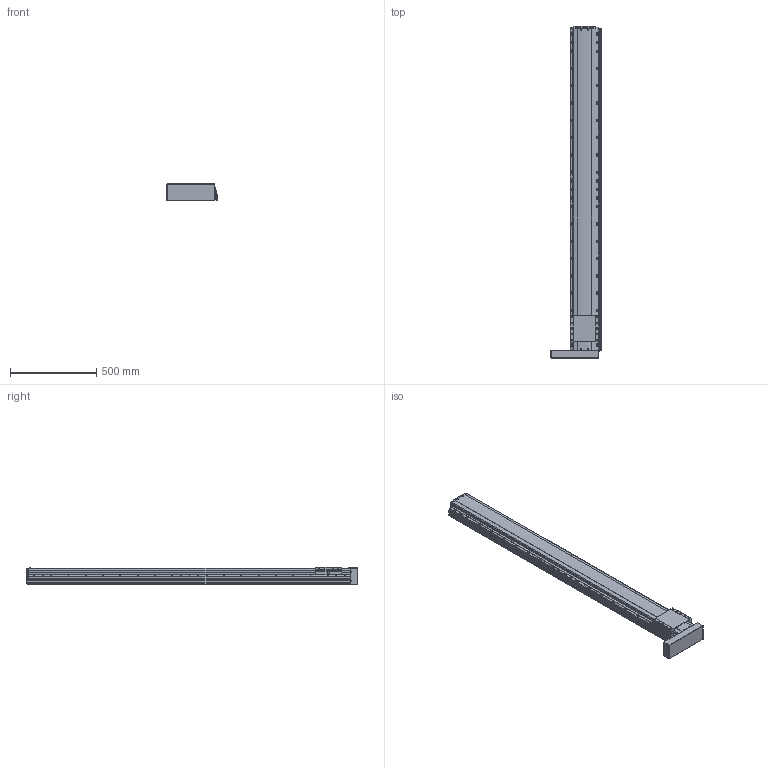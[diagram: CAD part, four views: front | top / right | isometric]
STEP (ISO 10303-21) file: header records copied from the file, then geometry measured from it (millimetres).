
FILE_DESCRIPTION(('STEP AP214'),'1');
FILE_NAME('Z:/Web/3D/PSA165/STP/PSA165-1600 (3D)/PSA165ㅁㅁ-1600PL+3SR.stp','2014-06-24T11:10:19',(' '),(' '),'Spatial InterOp 3D',' ',' ');
FILE_SCHEMA(('automotive_design'));
Length unit declared in the file: millimetre
Products named in the file (41): 스크루 : Round - M4.0 x 12.0; RRCV-PA160; BASE; 스크루 : Round - M4.0 x 10.0; RN15; Screw 20; SLIDE; FRCV; MTPL; 스크루 : Round - M3.0 x 6.0; M3.0 x 6.0; SRL-16x17-360L; SGD-SAN150; EE-SX674; SBK-SX674-352; BHCS M4.0 x 10.0
Bounding box: 294.46 x 1920.8 x 104 mm (x, y, z)
Volume: 26975754.6 mm3; surface area: 1784969 mm2
Topology: 41 solids, 41 shells, 2756 faces, 7413 edges, 4741 vertices
Faces by surface type: plane 1491, cylinder 903, cone 257, sphere 64, bspline 25, torus 16
Entity records: 112153 total; most frequent: CARTESIAN_POINT 19673, DIRECTION 14751, ORIENTED_EDGE 14454, EDGE_CURVE 7227, AXIS2_PLACEMENT_3D 5033, VERTEX_POINT 4741, LINE 4685, VECTOR 4685
